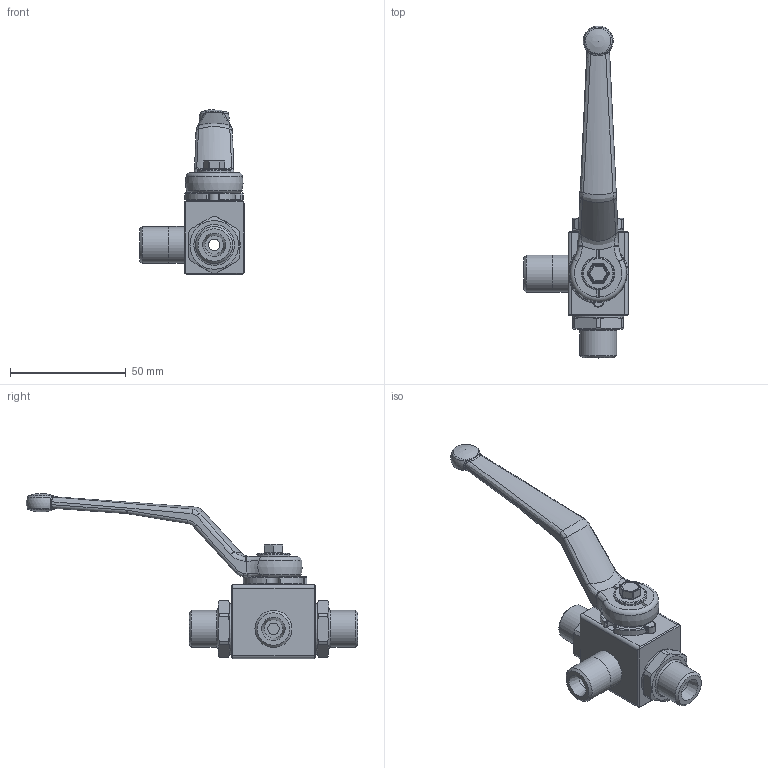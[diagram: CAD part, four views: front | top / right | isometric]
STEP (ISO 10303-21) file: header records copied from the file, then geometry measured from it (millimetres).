
FILE_DESCRIPTION( ( 'Unknown' ), '1' );
FILE_NAME( 'H:/PISTER/3D-MODELLE/BK3 stp/BK3 DN4 8S.stp', 'Unknown', ( 'Unknown' ), ( 'Unknown' ), 'PSStep 14.0', 'Unknown', ' ' );
FILE_SCHEMA( ( 'AUTOMOTIVE_DESIGN { 1 0 10303 214 1 1 1 1 }' ) );
Length unit declared in the file: millimetre
Products named in the file (10): Assem1; 06-008-059-oa7; 09-09-002; 58-28740-07-oa8; Griff_SW9; 58-0933-133; 04-004-024-oa9; 04-004-024-oa10; 01-008-015-oa11; 04-004-021-oa12
Assembly tree (9 placements, depth 2):
  Assem1
    06-008-059-oa7
    09-09-002
    58-28740-07-oa8
    Griff_SW9
    58-0933-133
    04-004-024-oa9
    04-004-024-oa10
    01-008-015-oa11
    04-004-021-oa12
Bounding box: 45.2 x 143.5 x 71.4 mm (x, y, z)
Volume: 31356.1 mm3; surface area: 23021.3 mm2
Topology: 9 solids, 9 shells, 388 faces, 953 edges, 573 vertices
Faces by surface type: cylinder 133, plane 125, bspline 42, torus 40, cone 28, sphere 20
Full cylindrical faces by diameter (mm): 4.134 x1, 4.98 x1, 5 x4, 8 x3, 14 x2, 14.3 x1, 16 x5, 21 x2, 22 x2, 22.5 x2
Entity records: 15804 total; most frequent: CARTESIAN_POINT 3956, DIRECTION 1845, ORIENTED_EDGE 1710, EDGE_CURVE 855, AXIS2_PLACEMENT_3D 752, VERTEX_POINT 548, EDGE_LOOP 468, FACE_OUTER_BOUND 423
